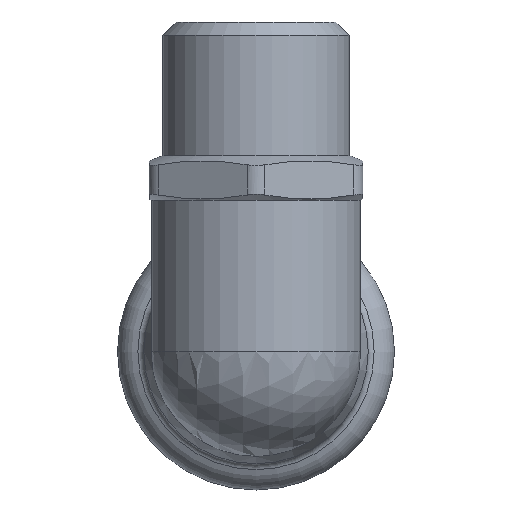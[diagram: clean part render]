
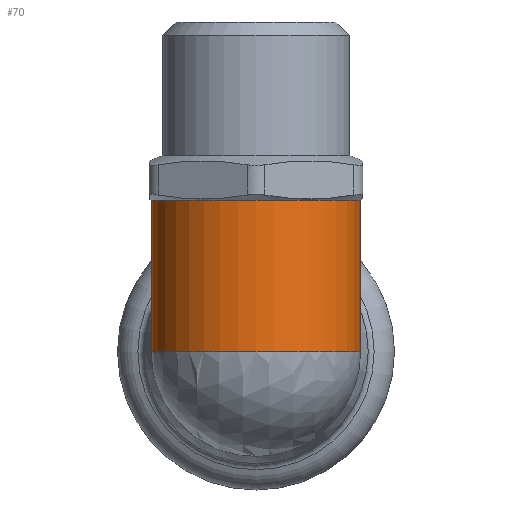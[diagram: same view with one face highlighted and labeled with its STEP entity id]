
A CAD part, front view. The second image highlights one B-rep face of the part: STEP entity #70.
In plain terms, the highlighted cylindrical face has radius 11.75 mm (diameter 23.5 mm), a full revolution.
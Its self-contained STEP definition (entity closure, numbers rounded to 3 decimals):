
#70=ADVANCED_FACE('',(#209,#211),#213,.T.);
#209=FACE_BOUND('',#210,.T.);
#210=EDGE_LOOP('',(#396,#397));
#211=FACE_OUTER_BOUND('',#212,.T.);
#212=EDGE_LOOP('',(#398));
#213=CYLINDRICAL_SURFACE('',#214,11.75);
#214=AXIS2_PLACEMENT_3D('',#215,#216,#217);
#215=CARTESIAN_POINT('',(0.,-46.5,0.));
#216=DIRECTION('',(0.,0.,1.));
#217=DIRECTION('',(-1.,0.,0.));
#396=ORIENTED_EDGE('',*,*,#465,.T.);
#397=ORIENTED_EDGE('',*,*,#466,.F.);
#398=ORIENTED_EDGE('',*,*,#464,.T.);
#464=EDGE_CURVE('',#548,#548,#549,.F.);
#465=EDGE_CURVE('',#550,#551,#552,.F.);
#466=EDGE_CURVE('',#550,#551,#553,.F.);
#548=VERTEX_POINT('',#1428);
#549=CIRCLE('',#1429,11.75);
#550=VERTEX_POINT('',#1433);
#551=VERTEX_POINT('',#1434);
#552=(BOUNDED_CURVE()B_SPLINE_CURVE(3,
(#1435,#1436,#1437,#1438),
.UNSPECIFIED.,.F.,.F.)B_SPLINE_CURVE_WITH_KNOTS((4,4),
(0.,1.),
.UNSPECIFIED.)CURVE()GEOMETRIC_REPRESENTATION_ITEM()RATIONAL_B_SPLINE_CURVE((1.,
0.333,0.333,1.))REPRESENTATION_ITEM(''));
#553=CIRCLE('',#1439,11.75);
#1428=CARTESIAN_POINT('',(-11.75,-46.5,17.));
#1429=AXIS2_PLACEMENT_3D('',#1430,#1431,#1432);
#1430=CARTESIAN_POINT('',(0.,-46.5,17.));
#1431=DIRECTION('',(0.,0.,1.));
#1432=DIRECTION('',(-1.,0.,0.));
#1433=CARTESIAN_POINT('',(11.75,-46.5,0.));
#1434=CARTESIAN_POINT('',(-11.75,-46.5,0.));
#1435=CARTESIAN_POINT('',(-11.75,-46.5,0.));
#1436=CARTESIAN_POINT('',(-11.75,-23.,23.5));
#1437=CARTESIAN_POINT('',(11.75,-23.,23.5));
#1438=CARTESIAN_POINT('',(11.75,-46.5,0.));
#1439=AXIS2_PLACEMENT_3D('',#1440,#1441,#1442);
#1440=CARTESIAN_POINT('',(0.,-46.5,0.));
#1441=DIRECTION('',(0.,0.,1.));
#1442=DIRECTION('',(-1.,0.,0.));
